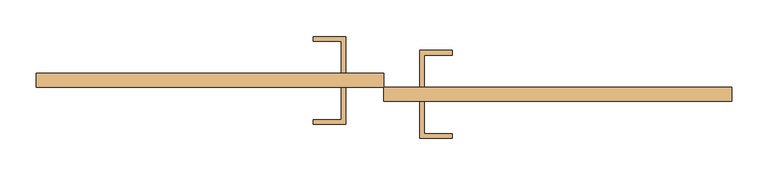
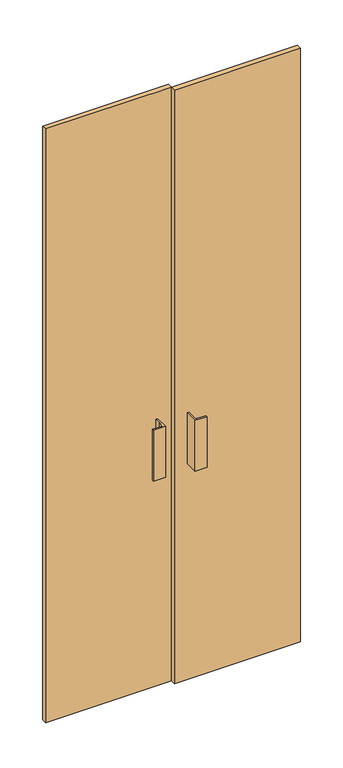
"""IFC4 building model written with IfcOpenShell, lengths in millimetres: door geometry, Parede cortina com vidro duplo CORRER : Parede cortina com vidro duplo CORRER 2."""

from ifc_helpers import new_model, si_unit, frame, origin, origin_with_axes, place, context, project, spatial, polyline, outline, extrude, source, transform, mapped, element, save


def door_a6f198b8(model_context):
    return source(origin(), model_context, "Body", "SweptSolid", [
        extrude(outline(polyline([(-475.5634909, 69.05), (1.5875, 69.05), (1.5875, 50.0), (-475.5634909, 50.0), (-475.5634909, 69.05)])), origin_with_axes(), (0.0, 0.0, 1.0), 2375.0),
        extrude(outline(polyline([(478.7384909, 30.95), (1.5875, 30.95), (1.5875, 50.0), (478.7384909, 50.0), (478.7384909, 30.95)])), origin_with_axes(), (0.0, 0.0, 1.0), 2375.0),
        extrude(outline(polyline([(-50.8, 119.85), (-50.8, 69.05), (-57.15, 69.05), (-57.15, 113.5), (-95.25, 113.5), (-95.25, 119.85), (-50.8, 119.85)])), frame((0.0, 0.0, 863.6), z_axis=(0.0, 0.0, 1.0), x_axis=(1.0, 0.0, 0.0)), (0.0, 0.0, 1.0), 203.2),
        extrude(outline(polyline([(50.8, 100.8), (95.25, 100.8), (95.25, 94.45), (57.15, 94.45), (57.15, 50.0), (50.8, 50.0), (50.8, 100.8)])), frame((0.0, 0.0, 863.6), z_axis=(0.0, 0.0, 1.0), x_axis=(1.0, 0.0, 0.0)), (0.0, 0.0, 1.0), 203.2),
        extrude(outline(polyline([(-50.8, -0.8), (-95.25, -0.8), (-95.25, 5.55), (-57.15, 5.55), (-57.15, 30.95), (-57.15, 50.0), (-50.8, 50.0), (-50.8, -0.8)])), frame((0.0, 0.0, 863.6), z_axis=(0.0, 0.0, 1.0), x_axis=(1.0, 0.0, 0.0)), (0.0, 0.0, 1.0), 203.2),
        extrude(outline(polyline([(50.8, -19.85), (50.8, 30.95), (57.15, 30.95), (57.15, -13.5), (95.25, -13.5), (95.25, -19.85), (50.8, -19.85)])), frame((0.0, 0.0, 863.6), z_axis=(0.0, 0.0, 1.0), x_axis=(1.0, 0.0, 0.0)), (0.0, 0.0, 1.0), 203.2),
    ])


if __name__ == "__main__":
    model = new_model("IFC4")
    model_context = context("Model", 3, world=origin())
    ifc_project = project(units=[si_unit("LENGTHUNIT", "METRE", prefix="MILLI")], contexts=[model_context])
    site = spatial("IfcSite", under=ifc_project)
    building = spatial("IfcBuilding", under=site)
    placement = place(None, origin())
    door_shape = door_a6f198b8(model_context)
    element("IfcDoor", 1, ObjectType="Parede cortina com vidro duplo CORRER : Parede cortina com vidro duplo CORRER 2", at=placement, inside=building, context=model_context, shape_type="MappedRepresentation", body=[
        mapped(door_shape, transform((0.0, 0.0, 0.0), x_axis=(1.0, 0.0, 0.0), y_axis=(0.0, 1.0, 0.0), z_axis=(0.0, 0.0, 1.0))),
    ])
    save(model, "model.ifc")
